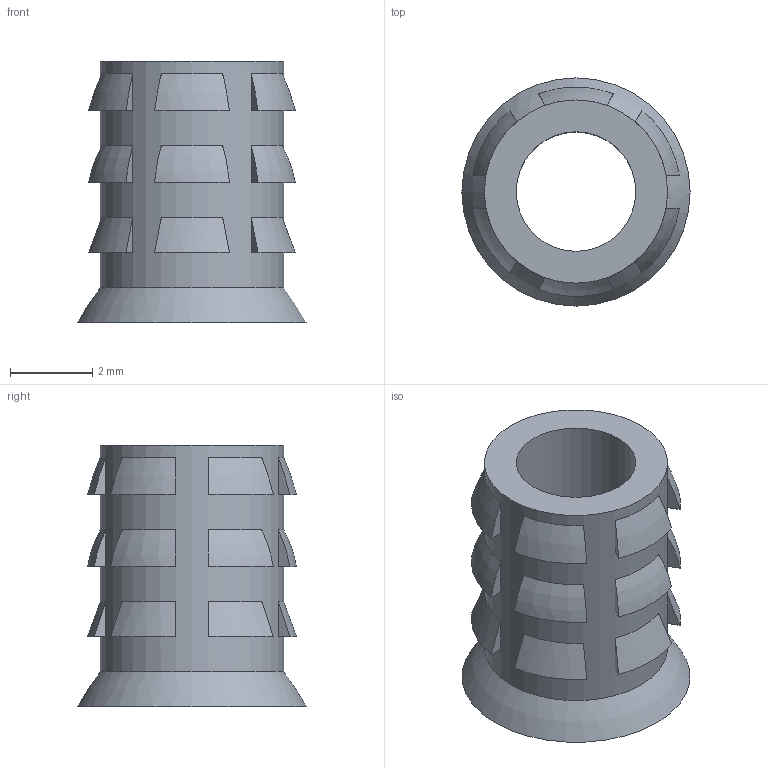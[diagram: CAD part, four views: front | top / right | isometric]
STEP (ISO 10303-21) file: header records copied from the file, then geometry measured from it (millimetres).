
FILE_DESCRIPTION (( 'STEP AP214' ), '1' );
FILE_NAME ('insert M3.5.STEP', '2017-08-09T10:55:42', ( '微软用户' ), ( '微软中国' ), 'SwSTEP 2.0', 'SolidWorks 2015', '' );
FILE_SCHEMA (( 'AUTOMOTIVE_DESIGN' ));
Length unit declared in the file: millimetre
Products named in the file (1): insert M3.5
Bounding box: 5.54 x 5.54 x 6.35 mm (x, y, z)
Volume: 64.4 mm3; surface area: 195.3 mm2
Topology: 1 solids, 1 shells, 78 faces, 172 edges, 114 vertices
Faces by surface type: plane 56, torus 19, cylinder 2, cone 1
Full cylindrical faces by diameter (mm): 2.9 x1, 4.445 x1
Entity records: 2238 total; most frequent: CARTESIAN_POINT 493, DIRECTION 350, ORIENTED_EDGE 336, EDGE_CURVE 168, AXIS2_PLACEMENT_3D 139, VERTEX_POINT 114, EDGE_LOOP 102, FACE_OUTER_BOUND 81
